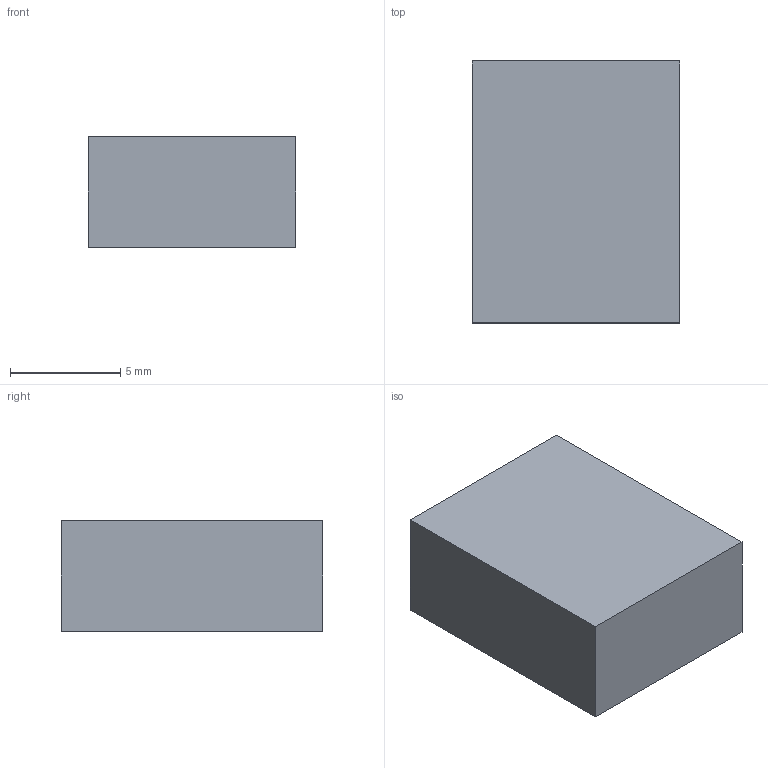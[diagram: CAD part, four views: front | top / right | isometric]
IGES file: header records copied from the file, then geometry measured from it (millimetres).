
Start section:  PTC IGES file: j5d-cn40b.igs
Global section: file name: j5d-cn40b.igs; native system: Creo Parametric by PTC Inc.; preprocessor: 2020184; author: VX25986; organization: Unknown; date: 20210323.200204; units: millimetre
Bounding box: 9.4 x 11.85 x 5 mm (x, y, z)
Surface area: 567.6 mm2 (no closed solid volume)
Topology: 0 solids, 0 shells, 12 faces, 54 edges, 54 vertices
Faces by surface type: bspline 12
